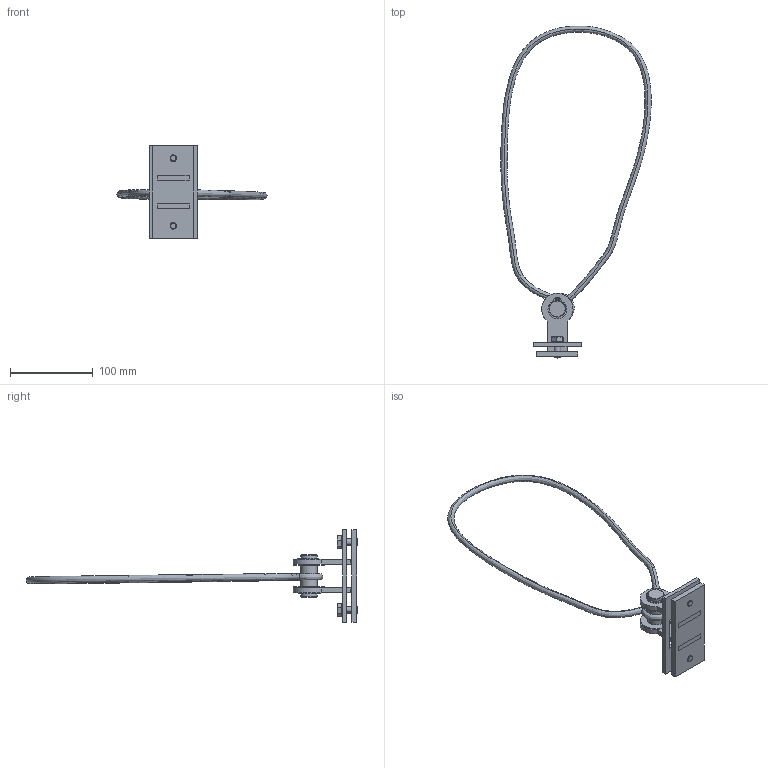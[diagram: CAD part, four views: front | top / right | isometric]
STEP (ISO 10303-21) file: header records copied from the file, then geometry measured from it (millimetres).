
FILE_DESCRIPTION (( 'STEP AP203' ), '1' );
FILE_NAME ('900.100.106.STEP', '2016-05-24T07:55:04', ( '' ), ( '' ), 'SwSTEP 2.0', 'SolidWorks 2016', '' );
FILE_SCHEMA (( 'CONFIG_CONTROL_DESIGN' ));
Length unit declared in the file: millimetre
Products named in the file (1): 900.100.106
Bounding box: 182.11 x 402.14 x 112 mm (x, y, z)
Surface area: 64268.3 mm2 (no closed solid volume)
Topology: 0 solids, 18 shells, 137 faces, 394 edges, 274 vertices
Faces by surface type: plane 61, cylinder 47, cone 22, bspline 7
Entity records: 5924 total; most frequent: CARTESIAN_POINT 2270, DIRECTION 774, ORIENTED_EDGE 660, EDGE_CURVE 394, AXIS2_PLACEMENT_3D 294, VERTEX_POINT 274, VECTOR 186, LINE 186
